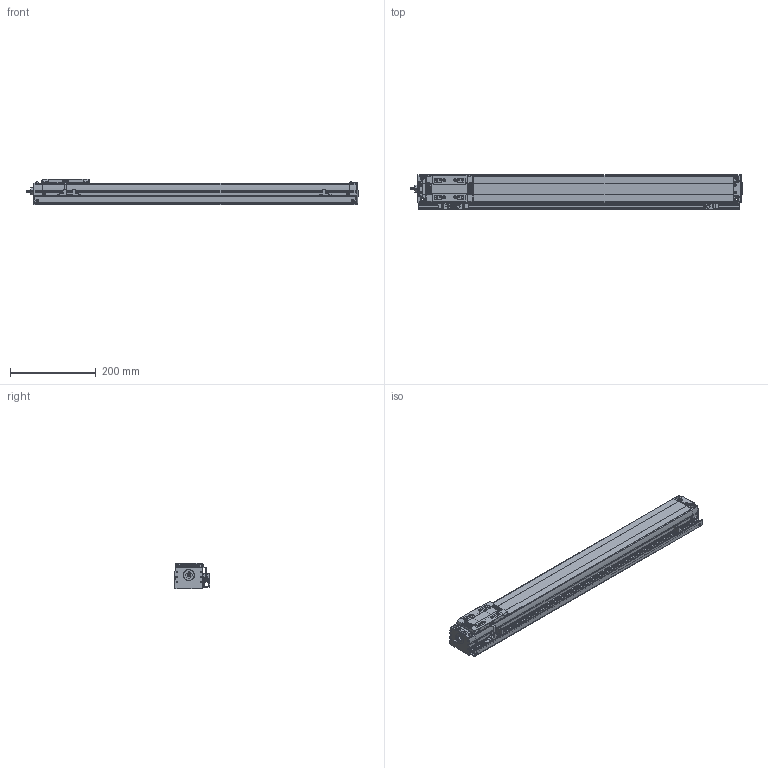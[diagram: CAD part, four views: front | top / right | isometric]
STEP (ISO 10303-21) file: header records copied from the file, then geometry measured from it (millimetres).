
FILE_DESCRIPTION(('STEP AP203'),'1');
FILE_NAME('Z:/Web/3D/SAN65/2012.ver/STP/600/SAN65ㅁㅁ-600+3SR.stp','2014-06-13T04:39:33',(' '),(' '),'Spatial InterOp 3D',' ',' ');
FILE_SCHEMA(('CONFIG_CONTROL_DESIGN'));
Length unit declared in the file: millimetre
Products named in the file (41): 1; 2; 3; 4; 5; 6; 7; 8; 9; 10; 11; 12; 13; 14; 15; 16; 17; 18; 19; 20; 21; 22; 23; 24; 25; 26; 27; 28; 29; 30; 31; 32; 33; 34; 35; 36; 37; 38; 39; 40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
Bounding box: 774.65 x 82.06 x 60 mm (x, y, z)
Volume: 2496076 mm3; surface area: 354199.7 mm2
Topology: 41 solids, 41 shells, 2225 faces, 5820 edges, 3753 vertices
Faces by surface type: plane 1243, cylinder 691, cone 191, sphere 52, bspline 24, torus 18, extrusion 6
Full cylindrical faces by diameter (mm): 2.132 x1, 3.5 x2, 6 x2
Entity records: 72309 total; most frequent: CARTESIAN_POINT 14557, DIRECTION 11968, ORIENTED_EDGE 11440, EDGE_CURVE 5720, AXIS2_PLACEMENT_3D 4120, VERTEX_POINT 3752, VECTOR 3728, LINE 3722
